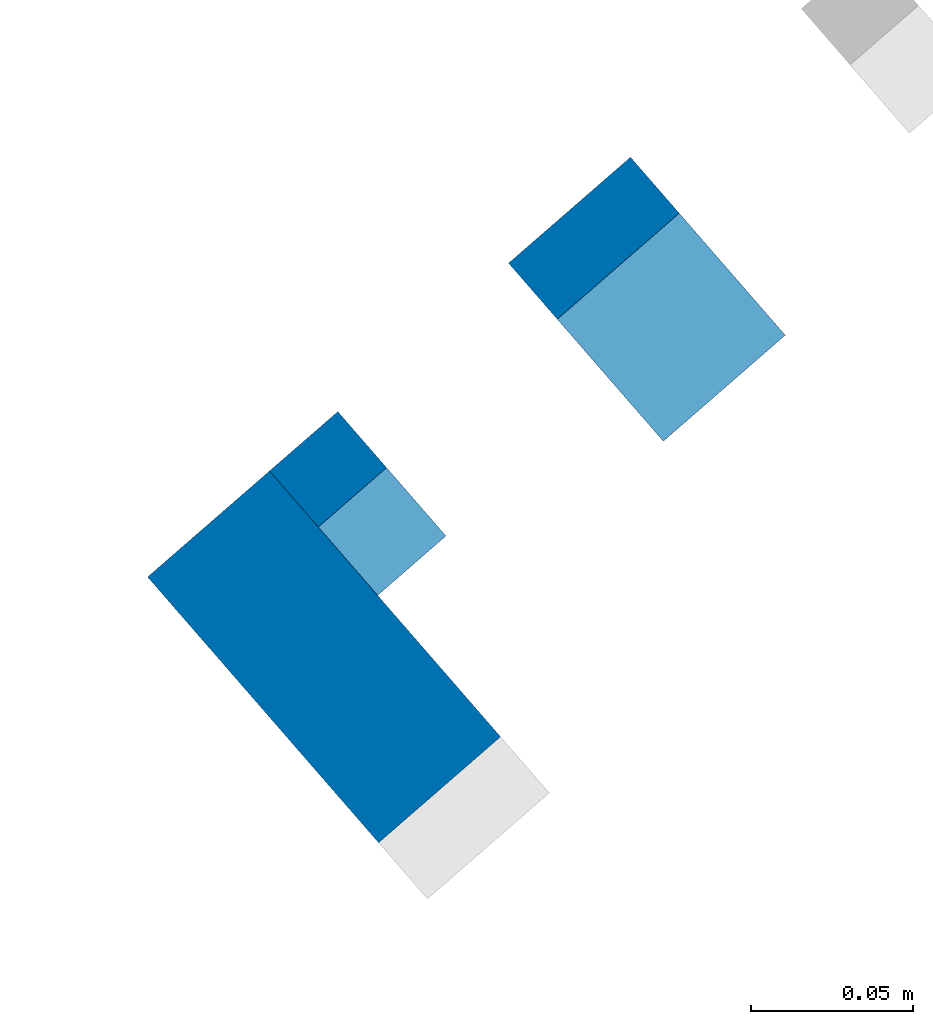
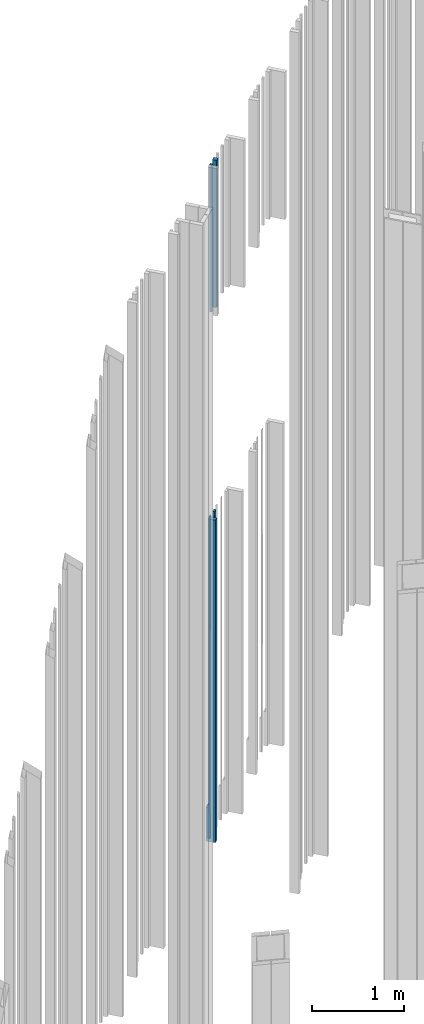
# One storey, part 255 of 390: 5 walls.
"""IFC2X3 building model written with IfcOpenShell, lengths in millimetres."""

from ifc_helpers import new_model, entity, si_unit, converted_unit, derived_unit, money_unit, direction, frame, origin_with_axes, place, context, subcontext, project, spatial, faceted_brep, material, type_object, element, save


model = new_model("IFC2X3")

# Units and contexts
model_context = context("Model", 3, precision=1e-05, world=origin_with_axes(), true_north=direction((0.0, 1.0)))
body_context = subcontext(model_context, "Body", "Model", "MODEL_VIEW")
ifc_project = project(units=[si_unit("LENGTHUNIT", "METRE", prefix="MILLI"), si_unit("AREAUNIT", "SQUARE_METRE"), si_unit("VOLUMEUNIT", "CUBIC_METRE"), converted_unit("PLANEANGLEUNIT", "DEGREE", entity("IfcPlaneAngleMeasure", 0.0174532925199), si_unit("PLANEANGLEUNIT", "RADIAN"), dimensions=[0, 0, 0, 0, 0, 0, 0]), si_unit("SOLIDANGLEUNIT", "STERADIAN"), money_unit("EUR"), converted_unit("TIMEUNIT", "Year", entity("IfcTimeMeasure", 31556926.0), si_unit("TIMEUNIT", "SECOND"), dimensions=[0, 0, 1, 0, 0, 0, 0]), si_unit("MASSUNIT", "GRAM", prefix="KILO"), si_unit("THERMODYNAMICTEMPERATUREUNIT", "DEGREE_CELSIUS"), si_unit("LUMINOUSINTENSITYUNIT", "LUMEN"), si_unit("ENERGYUNIT", "JOULE", prefix="MEGA"), derived_unit("THERMALCONDUCTANCEUNIT", [(si_unit("POWERUNIT", "WATT"), 1), (si_unit("LENGTHUNIT", "METRE"), -1), (si_unit("THERMODYNAMICTEMPERATUREUNIT", "KELVIN"), -1)]), derived_unit("SPECIFICHEATCAPACITYUNIT", [(si_unit("ENERGYUNIT", "JOULE"), 1), (si_unit("MASSUNIT", "GRAM", prefix="KILO"), -1), (si_unit("THERMODYNAMICTEMPERATUREUNIT", "KELVIN"), -1)]), derived_unit("MASSDENSITYUNIT", [(si_unit("MASSUNIT", "GRAM", prefix="KILO"), 1), (si_unit("VOLUMEUNIT", "CUBIC_METRE"), -1)])], contexts=[model_context])

# Site, building, storey
site_placement = place(None, origin_with_axes())
site = spatial("IfcSite", under=ifc_project, at=site_placement, Name="Site", CompositionType="ELEMENT")
building_placement = place(site_placement, origin_with_axes())
building = spatial("IfcBuilding", under=site, at=building_placement, Name="Building", CompositionType="ELEMENT")
storey_placement = place(building_placement, origin_with_axes())
storey = spatial("IfcBuildingStorey", under=building, at=storey_placement, Name="1 korrus", CompositionType="ELEMENT", Elevation=0.0)

# Walls
ifc_material = material(Name="Site specified")
wall_type = type_object("IfcWallType", Name="Puitfassaadi ribistik", PredefinedType="NOTDEFINED")
wall_1_placement = place(storey_placement, frame((163955.238356, 87154.7309539, 7915.0), z_axis=(0.0, 0.0, 1.0), x_axis=(-0.754709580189, -0.65605902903, 0.0)))
element("IfcWall", 1, at=wall_1_placement, inside=storey, type_object=wall_type, material=ifc_material, Name="Site specified", context=body_context, shape_type="Brep", body=[
    faceted_brep([(-25.0, -25.0, 1950.0), (-25.0, -25.0, 0.0), (25.0, -25.0, 0.0), (25.0, -25.0, 1950.0), (-25.0, 25.0, 1950.0), (-25.0, 25.0, 0.0), (25.0, 25.0, 0.0), (25.0, 25.0, 1950.0)], [[[0, 1, 2, 3]], [[4, 5, 1, 0]], [[2, 1, 5, 6]], [[3, 2, 6, 7]], [[4, 0, 3, 7]], [[7, 6, 5, 4]]]),
])
wall_2_placement = place(storey_placement, frame((163865.772589, 87091.534694, 7915.0), z_axis=(0.0, 0.0, 1.0), x_axis=(-0.754709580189, -0.65605902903, 0.0)))
element("IfcWall", 2, at=wall_2_placement, inside=storey, type_object=wall_type, material=ifc_material, Name="Site specified", context=body_context, shape_type="Brep", body=[
    faceted_brep([(-14.0, -14.0, 1950.0), (-14.0, -14.0, 0.0), (14.0, -14.0, 0.0), (14.0, -14.0, 1950.0), (-14.0, 14.0, 1950.0), (-14.0, 14.0, 0.0), (14.0, 14.0, 0.0), (14.0, 14.0, 1950.0)], [[[0, 1, 2, 3]], [[4, 5, 1, 0]], [[2, 1, 5, 6]], [[3, 2, 6, 7]], [[4, 0, 3, 7]], [[7, 6, 5, 4]]]),
])
wall_3_placement = place(storey_placement, frame((163847.819949, 87052.740974, 935.0), z_axis=(0.0, 0.0, 1.0), x_axis=(-0.754709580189, -0.65605902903, 0.0)))
element("IfcWall", 3, at=wall_3_placement, inside=storey, type_object=wall_type, material=ifc_material, Name="Site specified", context=body_context, shape_type="Brep", body=[
    faceted_brep([(-25.0, -54.5, 0.0), (-25.0, -54.5, 450.0), (-25.0, -31.4999997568, 450.0), (-25.0, -31.4999986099, 4271.0), (-25.0, 54.5, 4271.0), (-25.0, 54.5, 0.0), (25.0, -54.5, 0.0), (25.0, -54.5, 450.0), (25.0, -31.4999997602, 450.0), (25.0, -31.4999986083, 4271.0), (25.0, 54.5, 4271.0), (25.0, 54.5, 0.0)], [[[0, 1, 2, 3, 4, 5]], [[6, 7, 1, 0]], [[8, 2, 1, 7]], [[9, 3, 2, 8]], [[4, 3, 9, 10]], [[4, 10, 11, 5]], [[11, 6, 0, 5]], [[8, 7, 6, 11, 10, 9]]]),
])
wall_4_placement = place(storey_placement, frame((163940.148998, 87172.089274, 935.0), z_axis=(0.0, 0.0, 1.0), x_axis=(-0.754709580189, -0.65605902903, 0.0)))
element("IfcWall", 4, at=wall_4_placement, inside=storey, type_object=wall_type, material=ifc_material, Name="Site specified", context=body_context, shape_type="Brep", body=[
    faceted_brep([(-25.0, -25.0, 0.0), (-25.0, -25.0, 450.0), (-25.0, -2.00000107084, 450.0), (-25.0, -1.99999993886, 4271.0), (-25.0, 25.0, 4271.0), (-25.0, 25.0, 0.0), (25.0, -25.0, 0.0), (25.0, -25.0, 450.0), (25.0, -2.00000107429, 450.0), (25.0, -1.99999993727, 4271.0), (25.0, 25.0, 4271.0), (25.0, 25.0, 0.0)], [[[0, 1, 2, 3, 4, 5]], [[6, 7, 1, 0]], [[8, 2, 1, 7]], [[9, 3, 2, 8]], [[4, 3, 9, 10]], [[4, 10, 11, 5]], [[11, 6, 0, 5]], [[8, 7, 6, 11, 10, 9]]]),
])
wall_5_placement = place(storey_placement, frame((163850.683232, 87108.8930141, 935.0), z_axis=(0.0, 0.0, 1.0), x_axis=(-0.754709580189, -0.65605902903, 0.0)))
element("IfcWall", 5, at=wall_5_placement, inside=storey, type_object=wall_type, material=ifc_material, Name="Site specified", context=body_context, shape_type="Brep", body=[
    faceted_brep([(-14.0, -14.0, 0.0), (-14.0, -14.0, 450.0), (-14.0, 9.00000024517, 450.0), (-14.0, 9.00000138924, 4271.0), (-14.0, 14.0, 4271.0), (-14.0, 14.0, 0.0), (14.0, -14.0, 0.0), (14.0, -14.0, 450.0), (14.0, 9.00000024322, 450.0), (14.0, 9.00000139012, 4271.0), (14.0, 14.0, 4271.0), (14.0, 14.0, 0.0)], [[[0, 1, 2, 3, 4, 5]], [[6, 7, 1, 0]], [[8, 2, 1, 7]], [[9, 3, 2, 8]], [[4, 3, 9, 10]], [[4, 10, 11, 5]], [[11, 6, 0, 5]], [[8, 7, 6, 11, 10, 9]]]),
])

save(model, "model.ifc")
